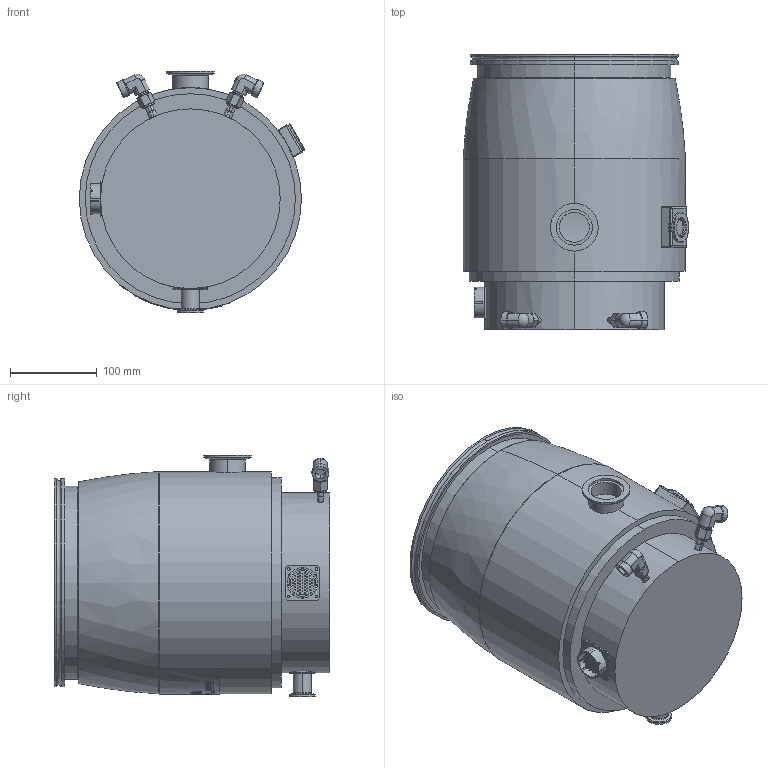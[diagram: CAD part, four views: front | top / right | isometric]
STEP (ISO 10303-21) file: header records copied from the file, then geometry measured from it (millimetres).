
FILE_DESCRIPTION((''),'2;1');
FILE_NAME('ENV-ATH1600M-P2512100','2007-02-02T',('NVARENNES'),(''),'PRO/ENGINEER BY PARAMETRIC TECHNOLOGY CORPORATION, 2006200','PRO/ENGINEER BY PARAMETRIC TECHNOLOGY CORPORATION, 2006200','');
FILE_SCHEMA(('CONFIG_CONTROL_DESIGN'));
Length unit declared in the file: millimetre
Products named in the file (1): ENV-ATH1600M-P2512100
Bounding box: 259.79 x 317.22 x 278.5 mm (x, y, z)
Volume: 14515972.6 mm3; surface area: 410302.5 mm2
Topology: 1 solids, 5 shells, 839 faces, 2077 edges, 1252 vertices
Faces by surface type: cylinder 289, plane 212, bspline 164, sphere 112, torus 32, cone 30
Entity records: 31829 total; most frequent: CARTESIAN_POINT 12378, ORIENTED_EDGE 3930, DIRECTION 3688, EDGE_CURVE 1965, AXIS2_PLACEMENT_3D 1454, VERTEX_POINT 1252, EDGE_LOOP 971, FACE_OUTER_BOUND 839
